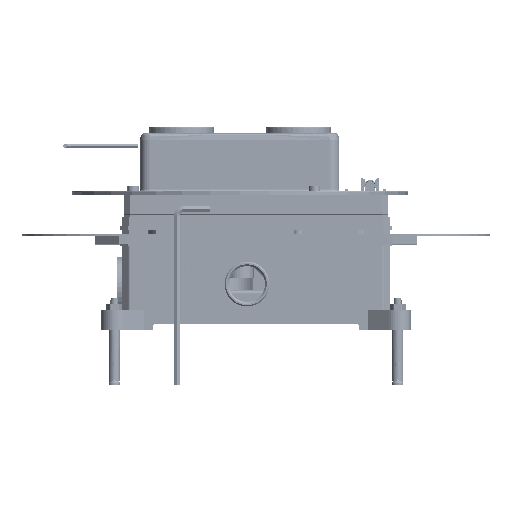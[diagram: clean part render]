
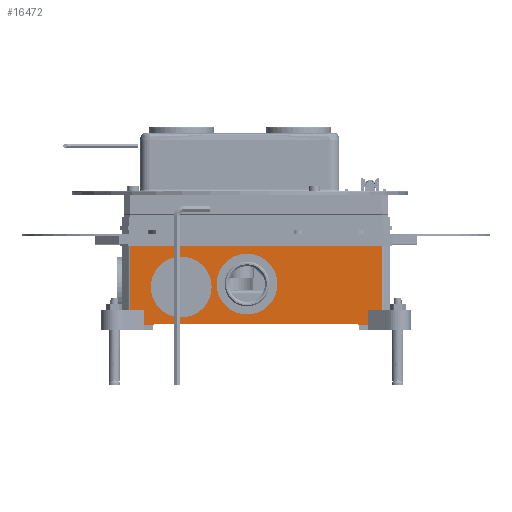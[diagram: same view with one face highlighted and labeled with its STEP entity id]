
A CAD part, top view. The second image highlights one B-rep face of the part: STEP entity #16472.
In plain terms, the highlighted planar face has unit normal (0, 0, 1).
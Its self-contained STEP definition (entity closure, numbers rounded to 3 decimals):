
#1641=CARTESIAN_POINT('',(-80.,15.,41.));
#1642=DIRECTION('',(0.,0.,-1.));
#1643=DIRECTION('',(0.,1.,0.));
#1644=AXIS2_PLACEMENT_3D('',#1641,#1642,#1643);
#1646=CARTESIAN_POINT('',(-80.,15.,41.));
#1647=DIRECTION('',(0.,0.,-1.));
#1648=DIRECTION('',(0.,-1.,0.));
#1649=AXIS2_PLACEMENT_3D('',#1646,#1647,#1648);
#1651=CARTESIAN_POINT('',(-35.,17.,41.));
#1652=DIRECTION('',(0.,0.,1.));
#1653=DIRECTION('',(1.,0.,0.));
#1654=AXIS2_PLACEMENT_3D('',#1651,#1652,#1653);
#1656=CARTESIAN_POINT('',(-35.,17.,41.));
#1657=DIRECTION('',(0.,0.,1.));
#1658=DIRECTION('',(-1.,0.,0.));
#1659=AXIS2_PLACEMENT_3D('',#1656,#1657,#1658);
#1677=DIRECTION('',(0.,1.,0.));
#1678=VECTOR('',#1677,44.);
#1679=CARTESIAN_POINT('',(57.379,-1.,41.));
#1680=LINE('',#1679,#1678);
#1681=DIRECTION('',(-1.,0.,0.));
#1682=VECTOR('',#1681,9.593);
#1683=CARTESIAN_POINT('',(57.379,-1.,41.));
#1684=LINE('',#1683,#1682);
#1685=DIRECTION('',(1.,0.,0.));
#1686=VECTOR('',#1685,138.6);
#1687=CARTESIAN_POINT('',(-98.15,-10.,
41.));
#1688=LINE('',#1687,#1686);
#1689=DIRECTION('',(1.,0.,0.));
#1690=VECTOR('',#1689,9.593);
#1691=CARTESIAN_POINT('',(-115.079,-1.,41.));
#1692=LINE('',#1691,#1690);
#1693=DIRECTION('',(0.,-1.,0.));
#1694=VECTOR('',#1693,44.);
#1695=CARTESIAN_POINT('',(-115.079,43.,41.));
#1696=LINE('',#1695,#1694);
#1697=DIRECTION('',(1.,0.,0.));
#1698=VECTOR('',#1697,172.457);
#1699=CARTESIAN_POINT('',(-115.079,43.,41.));
#1700=LINE('',#1699,#1698);
#5008=DIRECTION('',(1.,0.,0.));
#5009=VECTOR('',#5008,6.318);
#5010=CARTESIAN_POINT('',(41.467,-11.,41.));
#5011=LINE('',#5010,#5009);
#5045=CARTESIAN_POINT('',(40.45,-10.,41.));
#5046=CARTESIAN_POINT('',(40.621,-10.169,41.));
#5047=CARTESIAN_POINT('',(40.962,-10.504,41.));
#5048=CARTESIAN_POINT('',(41.299,-10.835,41.));
#5049=CARTESIAN_POINT('',(41.467,-11.,41.));
#7909=CARTESIAN_POINT('',(-99.167,-11.,
41.));
#7910=CARTESIAN_POINT('',(-98.999,-10.835,
41.));
#7911=CARTESIAN_POINT('',(-98.663,-10.504,
41.));
#7912=CARTESIAN_POINT('',(-98.321,-10.169,
41.));
#7913=CARTESIAN_POINT('',(-98.15,-10.,
41.));
#7961=DIRECTION('',(-1.,0.,0.));
#7962=VECTOR('',#7961,6.318);
#7963=CARTESIAN_POINT('',(-99.167,-11.,
41.));
#7964=LINE('',#7963,#7962);
#8156=DIRECTION('',(0.,-1.,0.));
#8157=VECTOR('',#8156,10.);
#8158=CARTESIAN_POINT('',(-105.485,-1.,41.));
#8159=LINE('',#8158,#8157);
#9477=DIRECTION('',(0.,1.,0.));
#9478=VECTOR('',#9477,10.);
#9479=CARTESIAN_POINT('',(47.785,-11.,41.));
#9480=LINE('',#9479,#9478);
#11611=CARTESIAN_POINT('',(-80.,34.,41.));
#11612=CARTESIAN_POINT('',(-80.,-4.,41.));
#11613=VERTEX_POINT('',#11611);
#11614=VERTEX_POINT('',#11612);
#11615=CARTESIAN_POINT('',(-16.,17.,41.));
#11616=CARTESIAN_POINT('',(-54.,17.,41.));
#11617=VERTEX_POINT('',#11615);
#11618=VERTEX_POINT('',#11616);
#12125=CARTESIAN_POINT('',(47.785,-1.,41.));
#12126=VERTEX_POINT('',#12125);
#12133=CARTESIAN_POINT('',(-105.485,-1.,41.));
#12134=VERTEX_POINT('',#12133);
#13105=CARTESIAN_POINT('',(47.785,-11.,41.));
#13107=VERTEX_POINT('',#13105);
#13123=CARTESIAN_POINT('',(41.467,-11.,
41.));
#13124=VERTEX_POINT('',#13123);
#13127=VERTEX_POINT('',#5045);
#13144=CARTESIAN_POINT('',(-105.485,-11.,41.));
#13146=VERTEX_POINT('',#13144);
#13169=CARTESIAN_POINT('',(-99.167,-11.,
41.));
#13170=VERTEX_POINT('',#13169);
#13171=CARTESIAN_POINT('',(-98.15,-10.,
41.));
#13172=VERTEX_POINT('',#13171);
#13195=CARTESIAN_POINT('',(57.379,-1.,41.));
#13196=CARTESIAN_POINT('',(57.379,43.,41.));
#13197=VERTEX_POINT('',#13195);
#13198=VERTEX_POINT('',#13196);
#13203=CARTESIAN_POINT('',(-115.079,43.,41.));
#13204=CARTESIAN_POINT('',(-115.079,-1.,41.));
#13205=VERTEX_POINT('',#13203);
#13206=VERTEX_POINT('',#13204);
#16432=CARTESIAN_POINT('',(0.,0.,41.));
#16433=DIRECTION('',(0.,0.,1.));
#16434=DIRECTION('',(1.,0.,0.));
#16435=AXIS2_PLACEMENT_3D('',#16432,#16433,#16434);
#16436=PLANE('',#16435);
#16438=ORIENTED_EDGE('',*,*,#16437,.F.);
#16440=ORIENTED_EDGE('',*,*,#16439,.T.);
#16442=ORIENTED_EDGE('',*,*,#16441,.F.);
#16444=ORIENTED_EDGE('',*,*,#16443,.F.);
#16446=ORIENTED_EDGE('',*,*,#16445,.F.);
#16448=ORIENTED_EDGE('',*,*,#16447,.F.);
#16450=ORIENTED_EDGE('',*,*,#16449,.F.);
#16452=ORIENTED_EDGE('',*,*,#16451,.T.);
#16454=ORIENTED_EDGE('',*,*,#16453,.F.);
#16456=ORIENTED_EDGE('',*,*,#16455,.F.);
#16458=ORIENTED_EDGE('',*,*,#16457,.F.);
#16460=ORIENTED_EDGE('',*,*,#16459,.T.);
#16461=EDGE_LOOP('',(#16438,#16440,#16442,#16444,#16446,#16448,#16450,#16452,
#16454,#16456,#16458,#16460));
#16462=FACE_OUTER_BOUND('',#16461,.F.);
#16463=ORIENTED_EDGE('',*,*,#15486,.F.);
#16464=ORIENTED_EDGE('',*,*,#15561,.F.);
#16465=EDGE_LOOP('',(#16463,#16464));
#16466=FACE_BOUND('',#16465,.F.);
#16467=ORIENTED_EDGE('',*,*,#16407,.T.);
#16469=ORIENTED_EDGE('',*,*,#16468,.T.);
#16470=EDGE_LOOP('',(#16467,#16469));
#16471=FACE_BOUND('',#16470,.F.);
#16472=ADVANCED_FACE('',(#16462,#16466,#16471),#16436,.T.);
#1645=CIRCLE('',#1644,19.);
#1650=CIRCLE('',#1649,19.);
#1655=CIRCLE('',#1654,19.);
#1660=CIRCLE('',#1659,19.);
#5050=B_SPLINE_CURVE_WITH_KNOTS('',3,(#5045,#5046,#5047,#5048,#5049),
.UNSPECIFIED.,.F.,.F.,(4,1,4),(0.,0.5,1.),.UNSPECIFIED.);
#7914=B_SPLINE_CURVE_WITH_KNOTS('',3,(#7909,#7910,#7911,#7912,#7913),
.UNSPECIFIED.,.F.,.F.,(4,1,4),(0.,0.5,1.),.UNSPECIFIED.);
#15486=EDGE_CURVE('',#11613,#11614,#1645,.T.);
#15561=EDGE_CURVE('',#11614,#11613,#1650,.T.);
#16407=EDGE_CURVE('',#11617,#11618,#1655,.T.);
#16437=EDGE_CURVE('',#13197,#13198,#1680,.T.);
#16439=EDGE_CURVE('',#13197,#12126,#1684,.T.);
#16441=EDGE_CURVE('',#13107,#12126,#9480,.T.);
#16443=EDGE_CURVE('',#13124,#13107,#5011,.T.);
#16445=EDGE_CURVE('',#13127,#13124,#5050,.T.);
#16447=EDGE_CURVE('',#13172,#13127,#1688,.T.);
#16449=EDGE_CURVE('',#13170,#13172,#7914,.T.);
#16451=EDGE_CURVE('',#13170,#13146,#7964,.T.);
#16453=EDGE_CURVE('',#12134,#13146,#8159,.T.);
#16455=EDGE_CURVE('',#13206,#12134,#1692,.T.);
#16457=EDGE_CURVE('',#13205,#13206,#1696,.T.);
#16459=EDGE_CURVE('',#13205,#13198,#1700,.T.);
#16468=EDGE_CURVE('',#11618,#11617,#1660,.T.);
